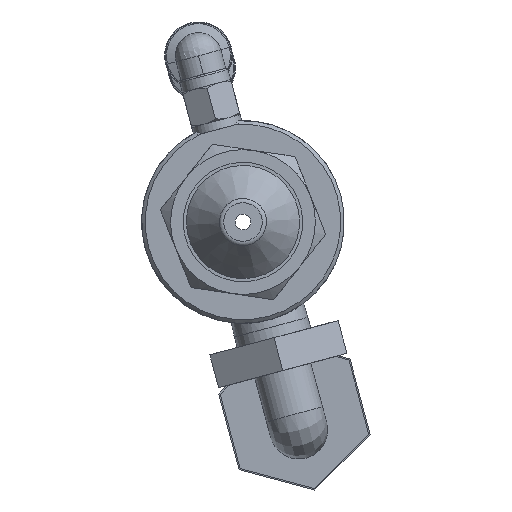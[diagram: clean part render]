
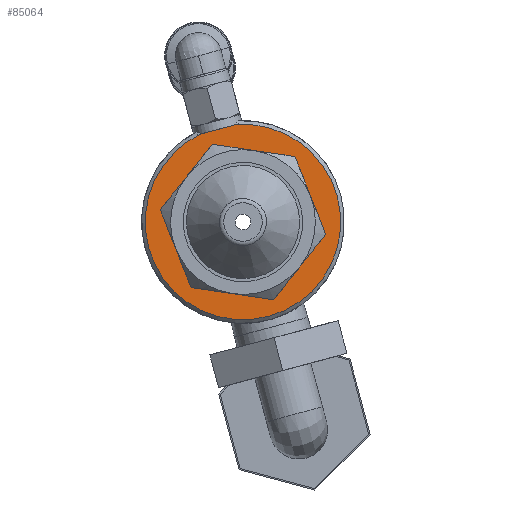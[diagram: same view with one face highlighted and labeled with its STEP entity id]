
A CAD part, front view. The second image highlights one B-rep face of the part: STEP entity #85064.
In plain terms, the highlighted planar face has unit normal (0, -1, 0) as drawn and (0, 1, 0) by its records, which use the part's own axes.
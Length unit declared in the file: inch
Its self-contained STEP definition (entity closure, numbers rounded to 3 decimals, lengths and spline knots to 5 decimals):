
#84829=CARTESIAN_POINT('',(-0.09487,1.435,0.53));
#84830=VERTEX_POINT('',#84829);
#84831=CARTESIAN_POINT('',(0.09487,1.435,0.53));
#84832=VERTEX_POINT('',#84831);
#84833=CARTESIAN_POINT('',(-0.09487,1.435,0.53));
#84834=DIRECTION('',(1.0,0.0,0.0));
#84835=VECTOR('',#84834,0.18974);
#84836=LINE('',#84833,#84835);
#84837=EDGE_CURVE('',#84830,#84832,#84836,.T.);
#84924=CARTESIAN_POINT('',(-0.09487,1.435,0.5316));
#84925=VERTEX_POINT('',#84924);
#84926=CARTESIAN_POINT('',(-0.09487,1.435,0.5316));
#84927=DIRECTION('',(0.0,0.,-1.0));
#84928=VECTOR('',#84927,0.0016);
#84929=LINE('',#84926,#84928);
#84930=EDGE_CURVE('',#84925,#84830,#84929,.T.);
#84982=CARTESIAN_POINT('',(0.09487,1.435,0.5316));
#84983=VERTEX_POINT('',#84982);
#84993=CARTESIAN_POINT('',(0.09487,1.435,0.53));
#84994=DIRECTION('',(0.0,0.,1.0));
#84995=VECTOR('',#84994,0.0016);
#84996=LINE('',#84993,#84995);
#84997=EDGE_CURVE('',#84832,#84983,#84996,.T.);
#85036=CARTESIAN_POINT('',(-0.4425,1.435,0.0));
#85037=DIRECTION('',(0.0,1.0,0.0));
#85038=DIRECTION('',(0.0,0.0,1.0));
#85039=AXIS2_PLACEMENT_3D('',#85036,#85037,#85038);
#85040=PLANE('',#85039);
#85041=ORIENTED_EDGE('',*,*,#84930,.T.);
#85042=ORIENTED_EDGE('',*,*,#84837,.T.);
#85043=ORIENTED_EDGE('',*,*,#84997,.T.);
#85044=CARTESIAN_POINT('',(0.0,1.435,0.0));
#85045=DIRECTION('',(0.0,1.0,0.0));
#85046=DIRECTION('',(-1.0,0.0,0.0));
#85047=AXIS2_PLACEMENT_3D('',#85044,#85045,#85046);
#85048=CIRCLE('',#85047,0.54);
#85049=EDGE_CURVE('',#84983,#84925,#85048,.T.);
#85050=ORIENTED_EDGE('',*,*,#85049,.T.);
#85051=EDGE_LOOP('',(#85041,#85042,#85043,#85050));
#85052=FACE_OUTER_BOUND('',#85051,.T.);
#85053=CARTESIAN_POINT('',(-0.345,1.435,0.0));
#85054=VERTEX_POINT('',#85053);
#85055=CARTESIAN_POINT('',(0.0,1.435,0.0));
#85056=DIRECTION('',(0.0,1.0,0.0));
#85057=DIRECTION('',(-1.0,0.0,0.0));
#85058=AXIS2_PLACEMENT_3D('',#85055,#85056,#85057);
#85059=CIRCLE('',#85058,0.345);
#85060=EDGE_CURVE('',#85054,#85054,#85059,.T.);
#85061=ORIENTED_EDGE('',*,*,#85060,.F.);
#85062=EDGE_LOOP('',(#85061));
#85063=FACE_BOUND('',#85062,.T.);
#85064=ADVANCED_FACE('',(#85052,#85063),#85040,.T.);
